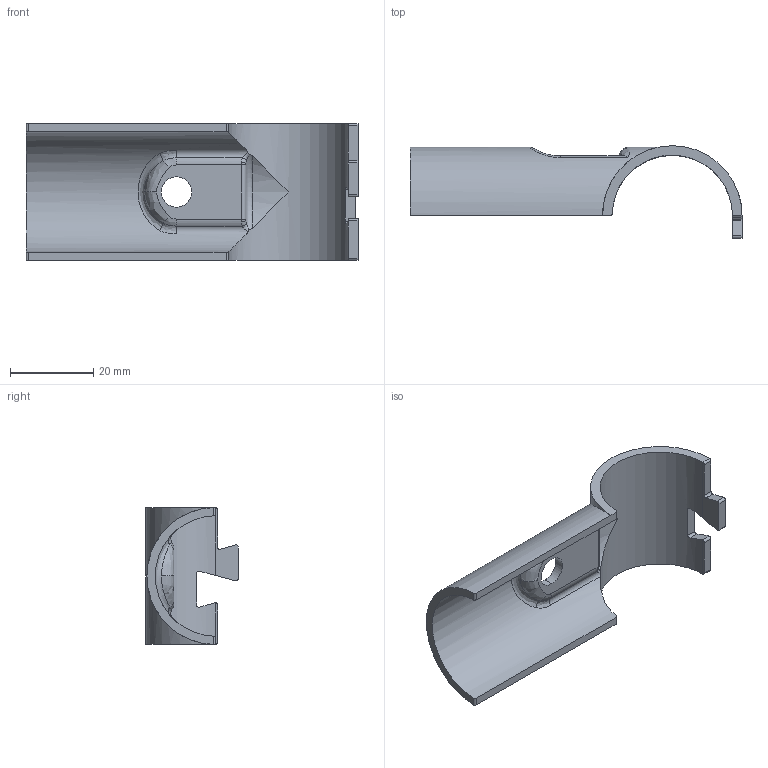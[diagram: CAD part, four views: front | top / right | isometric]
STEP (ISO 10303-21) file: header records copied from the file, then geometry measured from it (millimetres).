
FILE_DESCRIPTION (( 'STEP AP203' ), '1' );
FILE_NAME ('015.100.001.STEP', '2016-10-24T07:24:09', ( '' ), ( '' ), 'SwSTEP 2.0', 'SolidWorks 2016', '' );
FILE_SCHEMA (( 'CONFIG_CONTROL_DESIGN' ));
Length unit declared in the file: millimetre
Products named in the file (1): 015.100.001
Bounding box: 80 x 22.3 x 33 mm (x, y, z)
Volume: 8330.9 mm3; surface area: 8191.9 mm2
Topology: 1 solids, 1 shells, 73 faces, 189 edges, 119 vertices
Faces by surface type: cylinder 32, plane 20, bspline 16, torus 5
Entity records: 3443 total; most frequent: CARTESIAN_POINT 1724, ORIENTED_EDGE 378, DIRECTION 304, EDGE_CURVE 189, VERTEX_POINT 119, AXIS2_PLACEMENT_3D 119, EDGE_LOOP 76, ADVANCED_FACE 73
